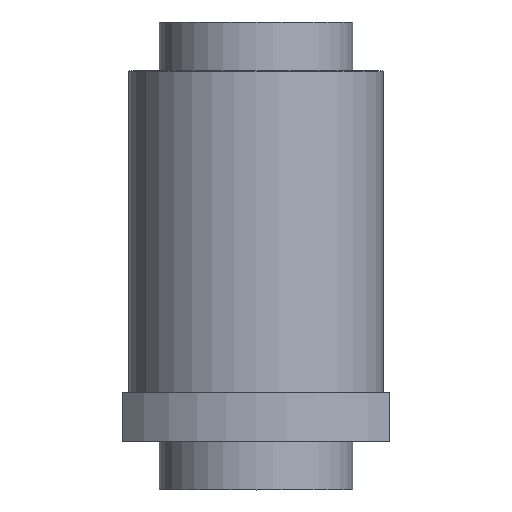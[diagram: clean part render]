
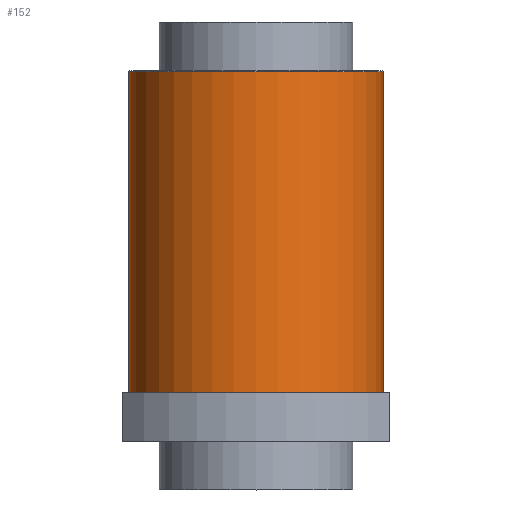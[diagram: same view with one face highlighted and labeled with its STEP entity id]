
A CAD part, top view. The second image highlights one B-rep face of the part: STEP entity #152.
In plain terms, the highlighted cylindrical face has radius 52.5 mm (diameter 105 mm), a full revolution.
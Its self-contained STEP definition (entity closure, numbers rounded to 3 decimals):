
#152=ADVANCED_FACE('',(#227,#228),#181,.T.);
#181=CYLINDRICAL_SURFACE('',#643,52.5);
#227=FACE_BOUND('',#311,.T.);
#228=FACE_BOUND('',#312,.T.);
#311=EDGE_LOOP('',(#413));
#312=EDGE_LOOP('',(#414));
#413=ORIENTED_EDGE('',*,*,#548,.T.);
#414=ORIENTED_EDGE('',*,*,#538,.T.);
#487=VERTEX_POINT('',#1021);
#497=VERTEX_POINT('',#1043);
#538=EDGE_CURVE('',#487,#487,#579,.T.);
#548=EDGE_CURVE('',#497,#497,#589,.T.);
#579=CIRCLE('',#630,52.5);
#589=CIRCLE('',#642,52.5);
#630=AXIS2_PLACEMENT_3D('',#1020,#744,#745);
#642=AXIS2_PLACEMENT_3D('',#1042,#768,#769);
#643=AXIS2_PLACEMENT_3D('',#1044,#770,#771);
#744=DIRECTION('',(0.,1.,0.));
#745=DIRECTION('',(0.,0.,1.));
#768=DIRECTION('',(0.,-1.,0.));
#769=DIRECTION('',(0.,0.,-1.));
#770=DIRECTION('',(0.,-1.,0.));
#771=DIRECTION('',(0.,0.,1.));
#1020=CARTESIAN_POINT('',(0.,-26.5,0.));
#1021=CARTESIAN_POINT('',(0.,-26.5,52.5));
#1042=CARTESIAN_POINT('',(0.,106.,0.));
#1043=CARTESIAN_POINT('',(0.,106.,-52.5));
#1044=CARTESIAN_POINT('',(0.,46.5,0.));
